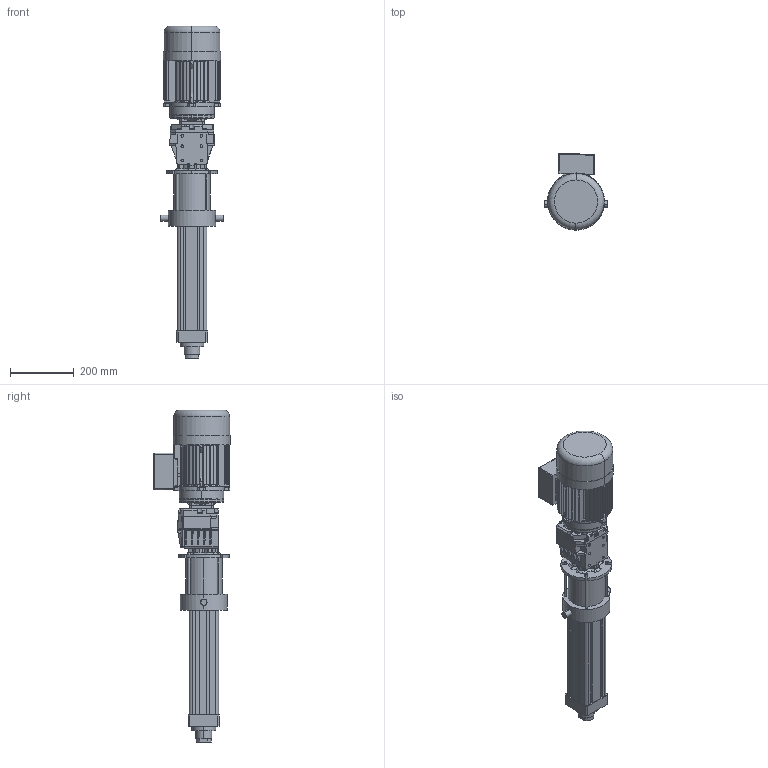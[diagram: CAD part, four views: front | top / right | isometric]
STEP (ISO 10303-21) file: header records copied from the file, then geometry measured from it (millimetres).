
FILE_DESCRIPTION (( 'STEP AP214' ), '1' );
FILE_NAME ('Ass MR80 TR C200.STEP', '2016-12-07T15:12:23', ( 'Hubert' ), ( '' ), 'SwSTEP 2.0', 'SolidWorks 2014', '' );
FILE_SCHEMA (( 'AUTOMOTIVE_DESIGN' ));
Length unit declared in the file: millimetre
Products named in the file (10): PAAV 80 D; Profilé MRRV80 TR C200; Tube MR 80 TR C200; Ass 402A_F MOT 90; _AT_90_LB_4_B14__230-400-50_AC.3d1; _P_402A_-F_4,37_V_3_-T___B3.3d; Vis MRRV80 TR C200; PAAR 80 B160; PAAR 80B160; Ass MR80 TR C200
Assembly tree (9 placements, depth 3):
  Ass MR80 TR C200
    PAAR 80 B160
      PAAR 80B160
    Vis MRRV80 TR C200
    Ass 402A_F MOT 90
      _P_402A_-F_4,37_V_3_-T___B3.3d
      _AT_90_LB_4_B14__230-400-50_AC.3d1
    Tube MR 80 TR C200
    Profilé MRRV80 TR C200
    PAAV 80 D
Bounding box: 198 x 240.51 x 1044.8 mm (x, y, z)
Volume: 9319971 mm3; surface area: 1256873.8 mm2
Topology: 6 solids, 30 shells, 1724 faces, 4723 edges, 3099 vertices
Faces by surface type: plane 851, cylinder 475, cone 250, bspline 146, torus 2
Entity records: 98826 total; most frequent: CARTESIAN_POINT 40362, ORIENTED_EDGE 9332, DIRECTION 6885, EDGE_CURVE 4667, VERTEX_POINT 3099, VECTOR 2429, LINE 2429, AXIS2_PLACEMENT_3D 2228
